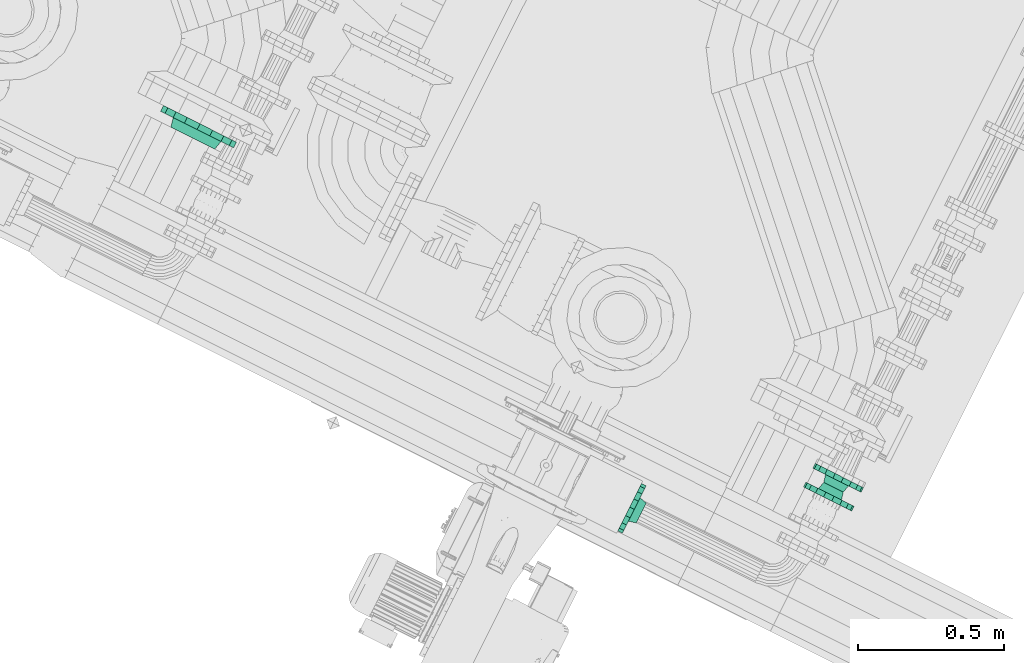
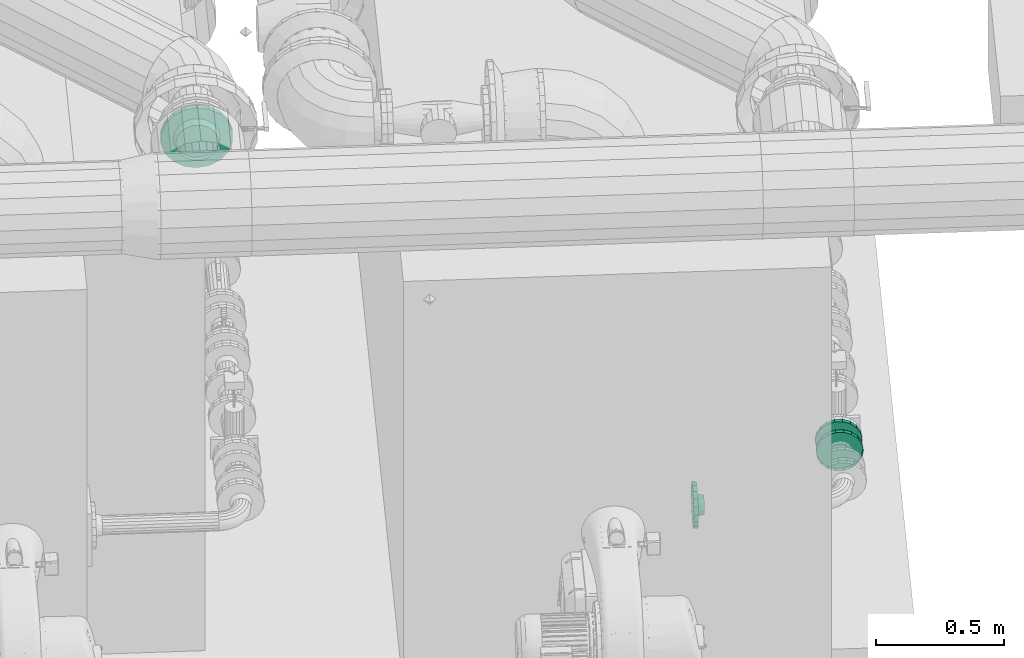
# One storey, part 56 of 206: 4 flow fittings.
"""IFC2X3 building model written with IfcOpenShell, lengths in metres."""

from ifc_helpers import new_model, si_unit, derived_unit, direction, frame, origin, place, context, subcontext, project, spatial, face_set, surface_model, source, transform, mapped, material, type_object, type_shapes, element, save


model = new_model("IFC2X3")

# Units and contexts
model_context = context("Model", 3, precision=5.2338327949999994e-05, world=origin(), true_north=direction((0.0, 1.0)))
body_context = subcontext(model_context, "Body", "Model", "MODEL_VIEW")
ifc_project = project(units=[si_unit("LENGTHUNIT", "METRE"), si_unit("AREAUNIT", "SQUARE_METRE"), si_unit("VOLUMEUNIT", "CUBIC_METRE"), si_unit("MASSUNIT", "GRAM", prefix="KILO"), si_unit("PLANEANGLEUNIT", "RADIAN"), derived_unit("THERMALTRANSMITTANCEUNIT", [(si_unit("MASSUNIT", "GRAM", prefix="KILO"), 1), (si_unit("THERMODYNAMICTEMPERATUREUNIT", "KELVIN"), -1), (si_unit("TIMEUNIT", "SECOND"), -3)])], contexts=[model_context])

# Site, building, storey
site_placement = place(None, frame((0.0, 0.0, 0.0), z_axis=(0.0, 0.0, 1.0), x_axis=(0.8939966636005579, -0.4480736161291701, 0.0)))
site = spatial("IfcSite", under=ifc_project, at=site_placement, Name="Default", CompositionType="ELEMENT")
building_placement = place(site_placement, origin())
building = spatial("IfcBuilding", under=site, at=building_placement, CompositionType="ELEMENT")
storey_placement = place(building_placement, origin())
storey = spatial("IfcBuildingStorey", under=building, at=storey_placement, Name="Erdgeschoss", CompositionType="ELEMENT", Elevation=0.0)

# Flow fittings
ifc_material_1 = material(Name="IfcSurfaceStyle #9317")
distribution_element_type_1 = type_object("IfcDistributionElementType", Name="Flansch 343058:Flansch 343058", material=ifc_material_1)
shared_shape_1 = source(origin(), body_context, "Body", "SurfaceModel", [
    surface_model("IfcFaceBasedSurfaceModel", [(24.940398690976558, 5.3439121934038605, 2.4964999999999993), (24.89166082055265, 5.3439121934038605, 2.4879061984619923), (24.89166082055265, 5.321912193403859, 2.4879061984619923), (24.940398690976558, 5.321912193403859, 2.4964999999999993), (24.848801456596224, 5.3439121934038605, 2.4631613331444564), (24.848801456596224, 5.321912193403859, 2.4631613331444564), (24.816990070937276, 5.3439121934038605, 2.425250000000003), (24.816990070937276, 5.321912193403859, 2.425250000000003), (24.80006358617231, 5.3439121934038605, 2.3787448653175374), (24.80006358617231, 5.321912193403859, 2.3787448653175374), (24.80006358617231, 5.3439121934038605, 2.329255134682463), (24.80006358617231, 5.321912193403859, 2.329255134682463), (24.81699007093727, 5.3439121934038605, 2.2827499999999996), (24.81699007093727, 5.321912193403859, 2.2827499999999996), (24.84880145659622, 5.3439121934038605, 2.2448386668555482), (24.84880145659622, 5.321912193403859, 2.2448386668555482), (24.891660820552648, 5.3439121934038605, 2.2200938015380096), (24.891660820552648, 5.321912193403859, 2.2200938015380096), (24.94039869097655, 5.3439121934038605, 2.2115000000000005), (24.94039869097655, 5.321912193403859, 2.2115000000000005), (24.98913656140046, 5.3439121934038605, 2.2200938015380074), (24.98913656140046, 5.321912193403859, 2.2200938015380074), (25.031995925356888, 5.3439121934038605, 2.244838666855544), (25.031995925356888, 5.321912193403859, 2.244838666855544), (25.063807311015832, 5.3439121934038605, 2.2827499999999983), (25.063807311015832, 5.321912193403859, 2.2827499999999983), (25.080733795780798, 5.3439121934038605, 2.3292551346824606), (25.080733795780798, 5.321912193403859, 2.3292551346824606), (25.08073379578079, 5.3439121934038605, 2.378744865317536), (25.08073379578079, 5.321912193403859, 2.378744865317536), (25.063807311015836, 5.3439121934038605, 2.425249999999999), (25.063807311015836, 5.321912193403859, 2.425249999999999), (25.03199592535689, 5.3439121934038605, 2.4631613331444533), (25.03199592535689, 5.321912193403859, 2.4631613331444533), (24.98913656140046, 5.3439121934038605, 2.4879061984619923), (24.98913656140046, 5.321912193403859, 2.4879061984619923), (24.94039869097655, 5.321912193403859, 2.3539999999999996), (24.84839869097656, 5.321912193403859, 2.354000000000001), (24.85394696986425, 5.321912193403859, 2.3225341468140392), (24.86132355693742, 5.288912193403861, 2.325219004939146), (24.856248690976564, 5.288912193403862, 2.354), (24.869922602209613, 5.321912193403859, 2.294863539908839), (24.875936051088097, 5.288912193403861, 2.299909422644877), (24.89439869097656, 5.321912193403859, 2.2743256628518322), (24.898323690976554, 5.288912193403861, 2.281123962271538), (24.924423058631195, 5.321912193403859, 2.2633976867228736), (24.925786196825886, 5.288912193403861, 2.2711284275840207), (24.956374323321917, 5.321912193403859, 2.2633976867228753), (24.955011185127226, 5.288912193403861, 2.271128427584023), (24.986398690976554, 5.321912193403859, 2.2743256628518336), (24.98247369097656, 5.288912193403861, 2.281123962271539), (25.0108747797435, 5.321912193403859, 2.2948635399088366), (25.00486133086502, 5.288912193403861, 2.2999094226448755), (25.026850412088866, 5.3219121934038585, 2.322534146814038), (25.01947382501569, 5.28891219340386, 2.3252190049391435), (25.032398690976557, 5.321912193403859, 2.353999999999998), (25.02454869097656, 5.288912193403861, 2.3539999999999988), (25.026850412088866, 5.3219121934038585, 2.3854658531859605), (25.019473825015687, 5.28891219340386, 2.382780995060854), (25.0108747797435, 5.321912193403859, 2.4131364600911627), (25.00486133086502, 5.288912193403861, 2.408090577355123), (24.986398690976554, 5.321912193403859, 2.433674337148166), (24.982473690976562, 5.288912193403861, 2.426876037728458), (24.956374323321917, 5.321912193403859, 2.4446023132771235), (24.955011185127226, 5.288912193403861, 2.436871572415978), (24.9244230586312, 5.321912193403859, 2.4446023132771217), (24.925786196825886, 5.288912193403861, 2.436871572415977), (24.89439869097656, 5.321912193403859, 2.4336743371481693), (24.898323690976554, 5.288912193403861, 2.42687603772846), (24.869922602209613, 5.321912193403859, 2.413136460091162), (24.87593605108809, 5.288912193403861, 2.4080905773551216), (24.853946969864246, 5.3219121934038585, 2.385465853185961), (24.86132355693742, 5.28891219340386, 2.3827809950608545)], [face_set([[[0, 1, 2, 3]], [[1, 4, 5, 2]], [[4, 6, 7, 5]], [[6, 8, 9, 7]], [[8, 10, 11, 9]], [[10, 12, 13, 11]], [[12, 14, 15, 13]], [[14, 16, 17, 15]], [[16, 18, 19, 17]], [[18, 20, 21, 19]], [[20, 22, 23, 21]], [[22, 24, 25, 23]], [[24, 26, 27, 25]], [[26, 28, 29, 27]], [[28, 30, 31, 29]], [[30, 32, 33, 31]], [[32, 34, 35, 33]], [[34, 0, 3, 35]], [[36, 35, 3]], [[36, 33, 35]], [[36, 31, 33]], [[36, 29, 31]], [[36, 27, 29]], [[36, 25, 27]], [[36, 23, 25]], [[36, 21, 23]], [[36, 19, 21]], [[36, 17, 19]], [[36, 15, 17]], [[36, 13, 15]], [[36, 11, 13]], [[36, 9, 11]], [[36, 7, 9]], [[36, 5, 7]], [[36, 2, 5]], [[36, 3, 2]], [[37, 38, 39, 40]], [[38, 41, 42, 39]], [[41, 43, 44, 42]], [[43, 45, 46, 44]], [[45, 47, 48, 46]], [[47, 49, 50, 48]], [[49, 51, 52, 50]], [[51, 53, 54, 52]], [[53, 55, 56, 54]], [[55, 57, 58, 56]], [[57, 59, 60, 58]], [[59, 61, 62, 60]], [[61, 63, 64, 62]], [[63, 65, 66, 64]], [[65, 67, 68, 66]], [[67, 69, 70, 68]], [[69, 71, 72, 70]], [[71, 37, 40, 72]]])]),
])
type_shapes(distribution_element_type_1, [shared_shape_1])
flow_fitting_1_placement = place(storey_placement, origin())
element("IfcFlowFitting", 1, at=flow_fitting_1_placement, inside=storey, type_object=distribution_element_type_1, material=ifc_material_1, Name="Flansch", ObjectType="Flansch", context=body_context, shape_type="MappedRepresentation", body=[
    mapped(shared_shape_1, transform((0.0, 0.0, 0.0), scale=1.0)),
])
ifc_material_2 = material(Name="IfcSurfaceStyle #352577")
distribution_element_type_2 = type_object("IfcDistributionElementType", Name="Flansch 604820:Flansch 604820", material=ifc_material_2)
shared_shape_2 = source(origin(), body_context, "Body", "SurfaceModel", [
    surface_model("IfcFaceBasedSurfaceModel", [(27.445642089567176, 5.2029583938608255, 0.8319499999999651), (27.458655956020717, 5.202958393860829, 0.8342446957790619), (27.46103299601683, 5.17595839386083, 0.8277138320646), (27.445642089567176, 5.175958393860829, 0.8249999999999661), (27.47010015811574, 5.20295839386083, 0.8408520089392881), (27.474567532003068, 5.175958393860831, 0.835528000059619), (27.478594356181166, 5.20295839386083, 0.8509749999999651), (27.484613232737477, 5.175958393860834, 0.8474999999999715), (27.48311402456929, 5.202958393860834, 0.8633926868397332), (27.489958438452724, 5.175958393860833, 0.8621858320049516), (27.483114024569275, 5.2029583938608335, 0.8766073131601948), (27.48995843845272, 5.175958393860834, 0.877814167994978), (27.478594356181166, 5.202958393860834, 0.8890249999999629), (27.484613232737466, 5.175958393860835, 0.8924999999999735), (27.47010015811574, 5.202958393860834, 0.8991479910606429), (27.474567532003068, 5.175958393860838, 0.904471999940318), (27.458655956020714, 5.202958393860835, 0.9057553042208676), (27.461032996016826, 5.175958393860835, 0.9122861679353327), (27.445642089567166, 5.202958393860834, 0.9080499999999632), (27.44564208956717, 5.175958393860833, 0.9149999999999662), (27.43262822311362, 5.202958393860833, 0.9057553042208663), (27.430251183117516, 5.175958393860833, 0.9122861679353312), (27.421184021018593, 5.202958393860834, 0.8991479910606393), (27.416716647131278, 5.175958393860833, 0.9044719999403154), (27.412689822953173, 5.202958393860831, 0.8890249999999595), (27.406670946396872, 5.175958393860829, 0.892499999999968), (27.40817015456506, 5.202958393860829, 0.8766073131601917), (27.401325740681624, 5.175958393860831, 0.8778141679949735), (27.40817015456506, 5.202958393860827, 0.8633926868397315), (27.40132574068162, 5.175958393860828, 0.862185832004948), (27.412689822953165, 5.20295839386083, 0.8509749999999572), (27.406670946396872, 5.175958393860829, 0.8474999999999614), (27.421184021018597, 5.202958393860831, 0.8408520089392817), (27.416716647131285, 5.175958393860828, 0.8355280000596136), (27.432628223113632, 5.2029583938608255, 0.8342446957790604), (27.430251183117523, 5.175958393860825, 0.8277138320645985), (27.538142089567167, 5.175958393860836, 0.869999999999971), (27.53256365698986, 5.1759583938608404, 0.9016368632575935), (27.53256365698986, 5.157958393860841, 0.9016368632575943), (27.538142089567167, 5.157958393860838, 0.8699999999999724), (27.516501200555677, 5.1759583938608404, 0.9294578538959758), (27.516501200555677, 5.157958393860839, 0.9294578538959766), (27.491892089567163, 5.1759583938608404, 0.9501073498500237), (27.49189208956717, 5.1579583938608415, 0.9501073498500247), (27.46170454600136, 5.1759583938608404, 0.9610947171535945), (27.46170454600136, 5.157958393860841, 0.9610947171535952), (27.429579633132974, 5.175958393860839, 0.9610947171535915), (27.42957963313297, 5.157958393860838, 0.9610947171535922), (27.399392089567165, 5.175958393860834, 0.9501073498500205), (27.39939208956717, 5.157958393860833, 0.9501073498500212), (27.374782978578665, 5.175958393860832, 0.9294578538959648), (27.374782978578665, 5.157958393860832, 0.9294578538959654), (27.358720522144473, 5.175958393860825, 0.9016368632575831), (27.358720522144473, 5.157958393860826, 0.9016368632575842), (27.353142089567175, 5.175958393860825, 0.8699999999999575), (27.35314208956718, 5.1579583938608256, 0.869999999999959), (27.358720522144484, 5.175958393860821, 0.8383631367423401), (27.358720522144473, 5.157958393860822, 0.8383631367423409), (27.37478297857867, 5.175958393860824, 0.8105421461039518), (27.37478297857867, 5.157958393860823, 0.8105421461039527), (27.39939208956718, 5.175958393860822, 0.7898926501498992), (27.399392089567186, 5.157958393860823, 0.7898926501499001), (27.42957963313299, 5.175958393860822, 0.778905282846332), (27.42957963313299, 5.157958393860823, 0.778905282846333), (27.461704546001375, 5.175958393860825, 0.7789052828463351), (27.461704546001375, 5.1579583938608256, 0.7789052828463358), (27.49189208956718, 5.17595839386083, 0.7898926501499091), (27.49189208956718, 5.157958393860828, 0.78989265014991), (27.516501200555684, 5.17595839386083, 0.8105421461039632), (27.516501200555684, 5.157958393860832, 0.8105421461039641), (27.532563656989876, 5.175958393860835, 0.8383631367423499), (27.532563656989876, 5.157958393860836, 0.8383631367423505), (27.445642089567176, 5.175958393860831, 0.8699999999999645)], [face_set([[[0, 1, 2, 3]], [[1, 4, 5, 2]], [[4, 6, 7, 5]], [[6, 8, 9, 7]], [[8, 10, 11, 9]], [[10, 12, 13, 11]], [[12, 14, 15, 13]], [[14, 16, 17, 15]], [[16, 18, 19, 17]], [[18, 20, 21, 19]], [[20, 22, 23, 21]], [[22, 24, 25, 23]], [[24, 26, 27, 25]], [[26, 28, 29, 27]], [[28, 30, 31, 29]], [[30, 32, 33, 31]], [[32, 34, 35, 33]], [[34, 0, 3, 35]], [[36, 37, 38, 39]], [[37, 40, 41, 38]], [[40, 42, 43, 41]], [[42, 44, 45, 43]], [[44, 46, 47, 45]], [[46, 48, 49, 47]], [[48, 50, 51, 49]], [[50, 52, 53, 51]], [[52, 54, 55, 53]], [[54, 56, 57, 55]], [[56, 58, 59, 57]], [[58, 60, 61, 59]], [[60, 62, 63, 61]], [[62, 64, 65, 63]], [[64, 66, 67, 65]], [[66, 68, 69, 67]], [[68, 70, 71, 69]], [[70, 36, 39, 71]], [[72, 37, 36]], [[72, 40, 37]], [[72, 42, 40]], [[72, 44, 42]], [[72, 46, 44]], [[72, 48, 46]], [[72, 50, 48]], [[72, 52, 50]], [[72, 54, 52]], [[72, 56, 54]], [[72, 58, 56]], [[72, 60, 58]], [[72, 62, 60]], [[72, 64, 62]], [[72, 66, 64]], [[72, 68, 66]], [[72, 70, 68]], [[72, 36, 70]]])]),
])
type_shapes(distribution_element_type_2, [shared_shape_2])
flow_fitting_2_placement = place(storey_placement, origin())
element("IfcFlowFitting", 2, at=flow_fitting_2_placement, inside=storey, type_object=distribution_element_type_2, material=ifc_material_2, Name="Flansch", ObjectType="Flansch", context=body_context, shape_type="MappedRepresentation", body=[
    mapped(shared_shape_2, transform((0.0, 0.0, 0.0), scale=1.0)),
])
distribution_element_type_3 = type_object("IfcDistributionElementType", Name="Flansch 604885:Flansch 604885", material=ifc_material_2)
shared_shape_3 = source(origin(), body_context, "Body", "SurfaceModel", [
    surface_model("IfcFaceBasedSurfaceModel", [(27.445642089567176, 5.2029583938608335, 0.9080499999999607), (27.458655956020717, 5.202958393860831, 0.9057553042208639), (27.46103299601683, 5.229958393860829, 0.9122861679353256), (27.445642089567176, 5.229958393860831, 0.9149999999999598), (27.47010015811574, 5.20295839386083, 0.8991479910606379), (27.474567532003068, 5.229958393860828, 0.9044719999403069), (27.478594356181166, 5.20295839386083, 0.889024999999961), (27.48461323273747, 5.229958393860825, 0.8924999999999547), (27.48311402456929, 5.202958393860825, 0.8766073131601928), (27.489958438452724, 5.2299583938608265, 0.8778141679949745), (27.483114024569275, 5.2029583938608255, 0.8633926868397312), (27.48995843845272, 5.229958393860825, 0.8621858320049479), (27.478594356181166, 5.202958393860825, 0.8509749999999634), (27.484613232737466, 5.229958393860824, 0.847499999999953), (27.47010015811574, 5.202958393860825, 0.8408520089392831), (27.474567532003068, 5.229958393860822, 0.835528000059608), (27.458655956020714, 5.202958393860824, 0.8342446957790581), (27.461032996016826, 5.229958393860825, 0.827713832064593), (27.445642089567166, 5.2029583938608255, 0.8319499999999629), (27.445642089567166, 5.2299583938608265, 0.82499999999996), (27.43262822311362, 5.202958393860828, 0.8342446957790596), (27.43025118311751, 5.2299583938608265, 0.8277138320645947), (27.421184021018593, 5.202958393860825, 0.8408520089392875), (27.416716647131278, 5.229958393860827, 0.8355280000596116), (27.412689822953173, 5.20295839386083, 0.8509749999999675), (27.406670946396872, 5.229958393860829, 0.8474999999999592), (27.40817015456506, 5.202958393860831, 0.8633926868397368), (27.401325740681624, 5.229958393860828, 0.8621858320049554), (27.408170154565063, 5.202958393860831, 0.8766073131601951), (27.401325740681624, 5.229958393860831, 0.8778141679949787), (27.412689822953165, 5.202958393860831, 0.8890249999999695), (27.406670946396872, 5.229958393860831, 0.8924999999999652), (27.421184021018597, 5.202958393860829, 0.8991479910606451), (27.416716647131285, 5.229958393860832, 0.9044719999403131), (27.432628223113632, 5.2029583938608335, 0.9057553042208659), (27.430251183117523, 5.229958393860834, 0.9122861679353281), (27.538142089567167, 5.229958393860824, 0.8699999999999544), (27.53256365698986, 5.229958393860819, 0.8383631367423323), (27.53256365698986, 5.24795839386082, 0.8383631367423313), (27.538142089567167, 5.247958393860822, 0.8699999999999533), (27.516501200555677, 5.229958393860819, 0.8105421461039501), (27.516501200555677, 5.24795839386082, 0.8105421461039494), (27.491892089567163, 5.229958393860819, 0.7898926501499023), (27.49189208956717, 5.247958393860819, 0.7898926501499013), (27.461704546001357, 5.229958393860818, 0.7789052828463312), (27.461704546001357, 5.24795839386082, 0.7789052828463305), (27.42957963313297, 5.229958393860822, 0.7789052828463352), (27.42957963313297, 5.247958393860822, 0.7789052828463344), (27.399392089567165, 5.2299583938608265, 0.7898926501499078), (27.399392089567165, 5.247958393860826, 0.7898926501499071), (27.374782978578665, 5.229958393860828, 0.8105421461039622), (27.374782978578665, 5.247958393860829, 0.8105421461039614), (27.358720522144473, 5.229958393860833, 0.8383631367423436), (27.358720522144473, 5.2479583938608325, 0.838363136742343), (27.353142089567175, 5.2299583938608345, 0.8699999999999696), (27.35314208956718, 5.2479583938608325, 0.8699999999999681), (27.358720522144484, 5.229958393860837, 0.9016368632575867), (27.358720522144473, 5.247958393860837, 0.9016368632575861), (27.37478297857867, 5.229958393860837, 0.9294578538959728), (27.37478297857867, 5.247958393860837, 0.929457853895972), (27.39939208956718, 5.229958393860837, 0.9501073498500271), (27.399392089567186, 5.247958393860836, 0.9501073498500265), (27.42957963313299, 5.2299583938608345, 0.9610947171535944), (27.42957963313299, 5.247958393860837, 0.9610947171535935), (27.461704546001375, 5.229958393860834, 0.9610947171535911), (27.461704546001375, 5.2479583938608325, 0.9610947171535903), (27.49189208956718, 5.229958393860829, 0.9501073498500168), (27.49189208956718, 5.247958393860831, 0.9501073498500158), (27.516501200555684, 5.229958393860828, 0.9294578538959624), (27.516501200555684, 5.247958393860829, 0.9294578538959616), (27.532563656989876, 5.229958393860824, 0.9016368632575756), (27.532563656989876, 5.247958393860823, 0.9016368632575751), (27.445642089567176, 5.229958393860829, 0.8699999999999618)], [face_set([[[0, 1, 2, 3]], [[1, 4, 5, 2]], [[4, 6, 7, 5]], [[6, 8, 9, 7]], [[8, 10, 11, 9]], [[10, 12, 13, 11]], [[12, 14, 15, 13]], [[14, 16, 17, 15]], [[16, 18, 19, 17]], [[18, 20, 21, 19]], [[20, 22, 23, 21]], [[22, 24, 25, 23]], [[24, 26, 27, 25]], [[26, 28, 29, 27]], [[28, 30, 31, 29]], [[30, 32, 33, 31]], [[32, 34, 35, 33]], [[34, 0, 3, 35]], [[36, 37, 38, 39]], [[37, 40, 41, 38]], [[40, 42, 43, 41]], [[42, 44, 45, 43]], [[44, 46, 47, 45]], [[46, 48, 49, 47]], [[48, 50, 51, 49]], [[50, 52, 53, 51]], [[52, 54, 55, 53]], [[54, 56, 57, 55]], [[56, 58, 59, 57]], [[58, 60, 61, 59]], [[60, 62, 63, 61]], [[62, 64, 65, 63]], [[64, 66, 67, 65]], [[66, 68, 69, 67]], [[68, 70, 71, 69]], [[70, 36, 39, 71]], [[72, 37, 36]], [[72, 40, 37]], [[72, 42, 40]], [[72, 44, 42]], [[72, 46, 44]], [[72, 48, 46]], [[72, 50, 48]], [[72, 52, 50]], [[72, 54, 52]], [[72, 56, 54]], [[72, 58, 56]], [[72, 60, 58]], [[72, 62, 60]], [[72, 64, 62]], [[72, 66, 64]], [[72, 68, 66]], [[72, 70, 68]], [[72, 36, 70]]])]),
])
type_shapes(distribution_element_type_3, [shared_shape_3])
flow_fitting_3_placement = place(storey_placement, origin())
element("IfcFlowFitting", 3, at=flow_fitting_3_placement, inside=storey, type_object=distribution_element_type_3, material=ifc_material_2, Name="Flansch", ObjectType="Flansch", context=body_context, shape_type="MappedRepresentation", body=[
    mapped(shared_shape_3, transform((0.0, 0.0, 0.0), scale=1.0)),
])
distribution_element_type_4 = type_object("IfcDistributionElementType", Name="Flansch 604975:Flansch 604975", material=ifc_material_2)
shared_shape_4 = source(origin(), body_context, "Body", "SurfaceModel", [
    surface_model("IfcFaceBasedSurfaceModel", [(26.895146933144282, 4.7899083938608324, 0.8699999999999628), (26.895146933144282, 4.792203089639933, 0.8830138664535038), (26.868146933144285, 4.785672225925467, 0.8853909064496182), (26.868146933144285, 4.782958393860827, 0.8699999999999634), (26.895146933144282, 4.798810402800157, 0.894458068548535), (26.868146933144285, 4.793486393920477, 0.8989254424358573), (26.895146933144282, 4.808933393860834, 0.9029522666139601), (26.86814693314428, 4.805458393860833, 0.9089711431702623), (26.895146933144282, 4.821351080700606, 0.9074719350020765), (26.868146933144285, 4.820144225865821, 0.9143163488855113), (26.89514693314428, 4.834565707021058, 0.9074719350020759), (26.86814693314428, 4.835772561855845, 0.91431634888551), (26.895146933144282, 4.846983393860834, 0.9029522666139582), (26.868146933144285, 4.850458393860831, 0.9089711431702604), (26.895146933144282, 4.857106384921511, 0.8944580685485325), (26.86814693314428, 4.862430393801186, 0.8989254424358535), (26.89514693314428, 4.863713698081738, 0.8830138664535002), (26.868146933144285, 4.870244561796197, 0.8853909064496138), (26.895146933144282, 4.86600839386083, 0.8699999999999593), (26.868146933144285, 4.872958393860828, 0.8699999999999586), (26.895146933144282, 4.863713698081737, 0.8569861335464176), (26.868146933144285, 4.870244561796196, 0.8546090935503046), (26.895146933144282, 4.857106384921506, 0.8455419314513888), (26.868146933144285, 4.862430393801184, 0.8410745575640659), (26.895146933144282, 4.84698339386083, 0.8370477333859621), (26.868146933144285, 4.850458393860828, 0.8310288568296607), (26.895146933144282, 4.834565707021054, 0.8325280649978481), (26.868146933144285, 4.835772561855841, 0.8256836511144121), (26.895146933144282, 4.821351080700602, 0.8325280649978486), (26.868146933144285, 4.820144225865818, 0.8256836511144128), (26.895146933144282, 4.80893339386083, 0.8370477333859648), (26.868146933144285, 4.805458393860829, 0.8310288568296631), (26.895146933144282, 4.798810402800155, 0.8455419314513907), (26.868146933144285, 4.7934863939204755, 0.841074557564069), (26.895146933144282, 4.792203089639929, 0.8569861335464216), (26.868146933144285, 4.785672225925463, 0.8546090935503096), (26.86814693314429, 4.827958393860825, 0.7774999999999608), (26.86814693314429, 4.796321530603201, 0.7830784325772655), (26.850146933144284, 4.796321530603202, 0.783078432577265), (26.850146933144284, 4.827958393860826, 0.7774999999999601), (26.86814693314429, 4.768500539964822, 0.7991408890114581), (26.850146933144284, 4.768500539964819, 0.7991408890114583), (26.868146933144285, 4.747851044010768, 0.8237499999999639), (26.85014693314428, 4.747851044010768, 0.8237499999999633), (26.868146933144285, 4.736863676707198, 0.8539375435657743), (26.850146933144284, 4.736863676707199, 0.8539375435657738), (26.86814693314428, 4.736863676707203, 0.8860624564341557), (26.850146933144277, 4.736863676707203, 0.8860624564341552), (26.86814693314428, 4.7478510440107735, 0.9162499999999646), (26.85014693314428, 4.747851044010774, 0.9162499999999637), (26.86814693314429, 4.768500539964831, 0.9408591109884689), (26.850146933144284, 4.768500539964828, 0.940859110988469), (26.86814693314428, 4.79632153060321, 0.9569215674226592), (26.850146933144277, 4.796321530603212, 0.9569215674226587), (26.86814693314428, 4.827958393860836, 0.9624999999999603), (26.850146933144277, 4.827958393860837, 0.9624999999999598), (26.86814693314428, 4.859595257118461, 0.9569215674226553), (26.85014693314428, 4.859595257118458, 0.9569215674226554), (26.86814693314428, 4.887416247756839, 0.9408591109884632), (26.85014693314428, 4.887416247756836, 0.9408591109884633), (26.86814693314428, 4.908065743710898, 0.9162499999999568), (26.850146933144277, 4.908065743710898, 0.9162499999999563), (26.86814693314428, 4.91905311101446, 0.8860624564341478), (26.85014693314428, 4.91905311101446, 0.8860624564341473), (26.86814693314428, 4.91905311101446, 0.8539375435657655), (26.85014693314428, 4.91905311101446, 0.8539375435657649), (26.86814693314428, 4.90806574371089, 0.8237499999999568), (26.850146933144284, 4.9080657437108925, 0.8237499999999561), (26.86814693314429, 4.887416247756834, 0.7991408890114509), (26.850146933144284, 4.887416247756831, 0.7991408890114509), (26.868146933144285, 4.859595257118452, 0.7830784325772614), (26.850146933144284, 4.859595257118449, 0.7830784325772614), (26.86814693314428, 4.827958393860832, 0.86999999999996)], [face_set([[[0, 1, 2, 3]], [[1, 4, 5, 2]], [[4, 6, 7, 5]], [[6, 8, 9, 7]], [[8, 10, 11, 9]], [[10, 12, 13, 11]], [[12, 14, 15, 13]], [[14, 16, 17, 15]], [[16, 18, 19, 17]], [[18, 20, 21, 19]], [[20, 22, 23, 21]], [[22, 24, 25, 23]], [[24, 26, 27, 25]], [[26, 28, 29, 27]], [[28, 30, 31, 29]], [[30, 32, 33, 31]], [[32, 34, 35, 33]], [[34, 0, 3, 35]], [[36, 37, 38, 39]], [[37, 40, 41, 38]], [[40, 42, 43, 41]], [[42, 44, 45, 43]], [[44, 46, 47, 45]], [[46, 48, 49, 47]], [[48, 50, 51, 49]], [[50, 52, 53, 51]], [[52, 54, 55, 53]], [[54, 56, 57, 55]], [[56, 58, 59, 57]], [[58, 60, 61, 59]], [[60, 62, 63, 61]], [[62, 64, 65, 63]], [[64, 66, 67, 65]], [[66, 68, 69, 67]], [[68, 70, 71, 69]], [[70, 36, 39, 71]], [[72, 37, 36]], [[72, 40, 37]], [[72, 42, 40]], [[72, 44, 42]], [[72, 46, 44]], [[72, 48, 46]], [[72, 50, 48]], [[72, 52, 50]], [[72, 54, 52]], [[72, 56, 54]], [[72, 58, 56]], [[72, 60, 58]], [[72, 62, 60]], [[72, 64, 62]], [[72, 66, 64]], [[72, 68, 66]], [[72, 70, 68]], [[72, 36, 70]]])]),
])
type_shapes(distribution_element_type_4, [shared_shape_4])
flow_fitting_4_placement = place(storey_placement, origin())
element("IfcFlowFitting", 4, at=flow_fitting_4_placement, inside=storey, type_object=distribution_element_type_4, material=ifc_material_2, Name="Flansch", ObjectType="Flansch", context=body_context, shape_type="MappedRepresentation", body=[
    mapped(shared_shape_4, transform((0.0, 0.0, 0.0), scale=1.0)),
])

save(model, "model.ifc")
